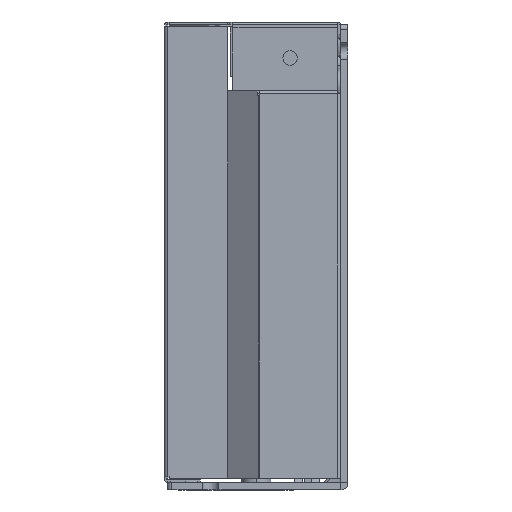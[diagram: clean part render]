
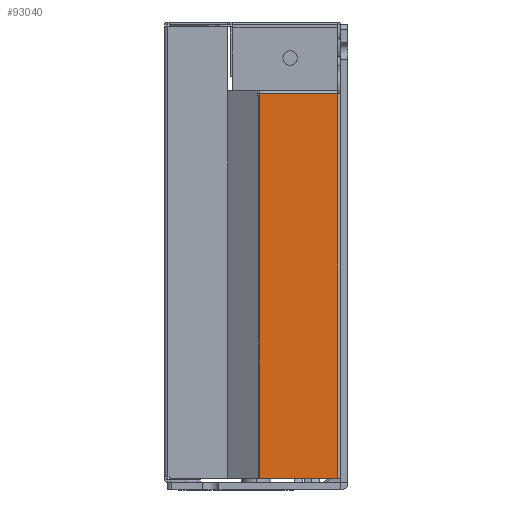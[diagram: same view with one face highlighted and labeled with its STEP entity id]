
A CAD part, left-side view. The second image highlights one B-rep face of the part: STEP entity #93040.
In plain terms, the highlighted planar face has unit normal (-1, 0, 0) as drawn and (1, 0, 0) by its records, which use the part's own axes.
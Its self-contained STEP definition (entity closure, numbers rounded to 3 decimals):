
#57392=DIRECTION('',(0.,0.,-1.));
#57393=VECTOR('',#57392,79.7);
#57394=CARTESIAN_POINT('',(80.,-35.9,-0.3));
#57395=LINE('',#57394,#57393);
#57778=DIRECTION('',(0.,-1.,0.));
#57779=VECTOR('',#57778,16.176);
#57780=CARTESIAN_POINT('',(80.,-19.724,-0.3));
#57781=LINE('',#57780,#57779);
#57785=DIRECTION('',(0.,0.,1.));
#57786=VECTOR('',#57785,0.15);
#57787=CARTESIAN_POINT('',(80.,-19.724,-80.));
#57788=LINE('',#57787,#57786);
#57792=DIRECTION('',(0.,0.,1.));
#57793=VECTOR('',#57792,79.55);
#57794=CARTESIAN_POINT('',(80.,-19.724,-79.85));
#57795=LINE('',#57794,#57793);
#57815=DIRECTION('',(0.,-1.,0.));
#57816=VECTOR('',#57815,16.176);
#57817=CARTESIAN_POINT('',(80.,-19.724,-80.));
#57818=LINE('',#57817,#57816);
#75036=CARTESIAN_POINT('',(80.,-19.724,-0.3));
#75037=VERTEX_POINT('',#75036);
#75038=CARTESIAN_POINT('',(80.,-35.9,-0.3));
#75039=VERTEX_POINT('',#75038);
#75044=CARTESIAN_POINT('',(80.,-35.9,-80.));
#75045=VERTEX_POINT('',#75044);
#80325=CARTESIAN_POINT('',(80.,-19.724,-80.));
#80326=CARTESIAN_POINT('',(80.,-19.724,-79.85));
#80327=VERTEX_POINT('',#80325);
#80328=VERTEX_POINT('',#80326);
#93026=CARTESIAN_POINT('',(80.,-19.724,-94.));
#93027=DIRECTION('',(-1.,0.,0.));
#93028=DIRECTION('',(0.,-1.,0.));
#93029=AXIS2_PLACEMENT_3D('',#93026,#93027,#93028);
#93030=PLANE('',#93029);
#93031=ORIENTED_EDGE('',*,*,#92645,.F.);
#93033=ORIENTED_EDGE('',*,*,#93032,.T.);
#93034=ORIENTED_EDGE('',*,*,#92720,.F.);
#93035=ORIENTED_EDGE('',*,*,#93020,.F.);
#93037=ORIENTED_EDGE('',*,*,#93036,.F.);
#93038=EDGE_LOOP('',(#93031,#93033,#93034,#93035,#93037));
#93039=FACE_OUTER_BOUND('',#93038,.F.);
#92645=EDGE_CURVE('',#80327,#80328,#57788,.T.);
#92720=EDGE_CURVE('',#75039,#75045,#57395,.T.);
#93020=EDGE_CURVE('',#75037,#75039,#57781,.T.);
#93032=EDGE_CURVE('',#80327,#75045,#57818,.T.);
#93036=EDGE_CURVE('',#80328,#75037,#57795,.T.);
#93040=ADVANCED_FACE('',(#93039),#93030,.F.);
